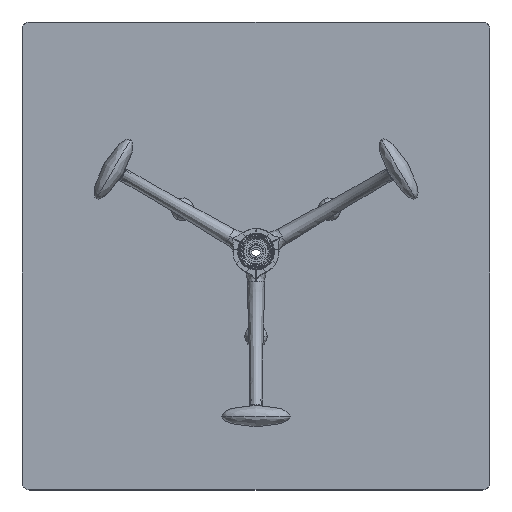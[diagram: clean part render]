
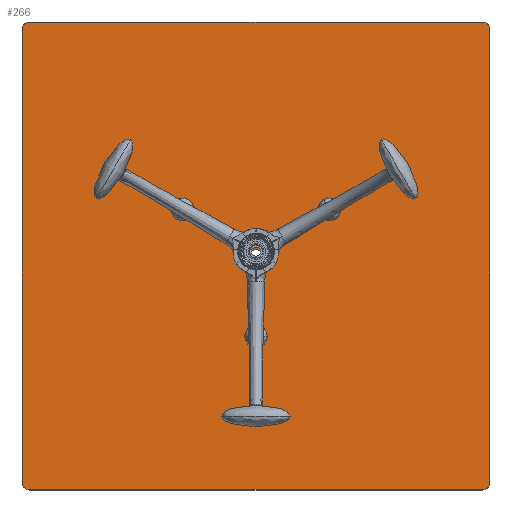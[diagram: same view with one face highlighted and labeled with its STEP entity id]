
A CAD part, top view. The second image highlights one B-rep face of the part: STEP entity #266.
In plain terms, the highlighted planar face has unit normal (0, 0, 1).
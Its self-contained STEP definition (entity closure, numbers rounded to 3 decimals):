
#97=FACE_BOUND($,#643,.T.);
#266=ADVANCED_FACE($,(#448,#97),#2934,.T.);
#448=FACE_OUTER_BOUND($,#642,.T.);
#642=EDGE_LOOP($,(#1783,#1784,#1785,#1786,#1787,#1788,#1789,#1790));
#643=EDGE_LOOP($,(#1791,#1792));
#1783=ORIENTED_EDGE($,*,*,#2428,.T.);
#1784=ORIENTED_EDGE($,*,*,#2429,.T.);
#1785=ORIENTED_EDGE($,*,*,#2430,.T.);
#1786=ORIENTED_EDGE($,*,*,#2431,.T.);
#1787=ORIENTED_EDGE($,*,*,#2432,.T.);
#1788=ORIENTED_EDGE($,*,*,#2427,.F.);
#1789=ORIENTED_EDGE($,*,*,#2423,.F.);
#1790=ORIENTED_EDGE($,*,*,#2433,.T.);
#1791=ORIENTED_EDGE($,*,*,#2435,.T.);
#1792=ORIENTED_EDGE($,*,*,#2434,.T.);
#2423=EDGE_CURVE($,#2879,#2880,#3256,.T.);
#2427=EDGE_CURVE($,#2880,#2881,#3639,.T.);
#2428=EDGE_CURVE($,#2882,#2883,#3259,.T.);
#2429=EDGE_CURVE($,#2883,#2884,#3640,.T.);
#2430=EDGE_CURVE($,#2884,#2885,#3260,.T.);
#2431=EDGE_CURVE($,#2885,#2886,#3641,.T.);
#2432=EDGE_CURVE($,#2886,#2881,#3261,.T.);
#2433=EDGE_CURVE($,#2879,#2882,#3642,.T.);
#2434=EDGE_CURVE($,#2887,#2888,#3262,.T.);
#2435=EDGE_CURVE($,#2888,#2887,#3263,.T.);
#2879=VERTEX_POINT($,#20258);
#2880=VERTEX_POINT($,#20259);
#2881=VERTEX_POINT($,#20260);
#2882=VERTEX_POINT($,#20261);
#2883=VERTEX_POINT($,#20262);
#2884=VERTEX_POINT($,#20263);
#2885=VERTEX_POINT($,#20264);
#2886=VERTEX_POINT($,#20265);
#2887=VERTEX_POINT($,#20266);
#2888=VERTEX_POINT($,#20267);
#2934=PLANE($,#4039);
#3256=(
BOUNDED_CURVE()
B_SPLINE_CURVE(2,(#20121,#20122,#20123),.UNSPECIFIED.,.F.,.F.)
B_SPLINE_CURVE_WITH_KNOTS((3,3),(1.571,3.142),.UNSPECIFIED.)
CURVE()
GEOMETRIC_REPRESENTATION_ITEM()
RATIONAL_B_SPLINE_CURVE((1.,0.707,1.))
REPRESENTATION_ITEM($)
);
#3259=(
BOUNDED_CURVE()
B_SPLINE_CURVE(2,(#20132,#20133,#20134),.UNSPECIFIED.,.F.,.F.)
B_SPLINE_CURVE_WITH_KNOTS((3,3),(-7.854,0.),.UNSPECIFIED.)
CURVE()
GEOMETRIC_REPRESENTATION_ITEM()
RATIONAL_B_SPLINE_CURVE((1.,0.707,1.))
REPRESENTATION_ITEM($)
);
#3260=(
BOUNDED_CURVE()
B_SPLINE_CURVE(2,(#20137,#20138,#20139),.UNSPECIFIED.,.F.,.F.)
B_SPLINE_CURVE_WITH_KNOTS((3,3),(-7.854,0.),.UNSPECIFIED.)
CURVE()
GEOMETRIC_REPRESENTATION_ITEM()
RATIONAL_B_SPLINE_CURVE((1.,0.707,1.))
REPRESENTATION_ITEM($)
);
#3261=(
BOUNDED_CURVE()
B_SPLINE_CURVE(2,(#20142,#20143,#20144),.UNSPECIFIED.,.F.,.F.)
B_SPLINE_CURVE_WITH_KNOTS((3,3),(-7.854,0.),.UNSPECIFIED.)
CURVE()
GEOMETRIC_REPRESENTATION_ITEM()
RATIONAL_B_SPLINE_CURVE((1.,0.707,1.))
REPRESENTATION_ITEM($)
);
#3262=(
BOUNDED_CURVE()
B_SPLINE_CURVE(2,(#20147,#20148,#20149,#20150,#20151),.UNSPECIFIED.,.F.,
.F.)
B_SPLINE_CURVE_WITH_KNOTS((3,2,3),(12.881,19.321,25.761),
.UNSPECIFIED.)
CURVE()
GEOMETRIC_REPRESENTATION_ITEM()
RATIONAL_B_SPLINE_CURVE((1.,0.707,1.,0.707,1.))
REPRESENTATION_ITEM($)
);
#3263=(
BOUNDED_CURVE()
B_SPLINE_CURVE(2,(#20152,#20153,#20154,#20155,#20156),.UNSPECIFIED.,.F.,
.F.)
B_SPLINE_CURVE_WITH_KNOTS((3,2,3),(0.,6.44,12.881),
.UNSPECIFIED.)
CURVE()
GEOMETRIC_REPRESENTATION_ITEM()
RATIONAL_B_SPLINE_CURVE((1.,0.707,1.,0.707,1.))
REPRESENTATION_ITEM($)
);
#3639=B_SPLINE_CURVE_WITH_KNOTS($,1,(#20130,#20131),.UNSPECIFIED.,.F.,.F.,
(2,2),(0.,290.),.UNSPECIFIED.);
#3640=B_SPLINE_CURVE_WITH_KNOTS($,1,(#20135,#20136),.UNSPECIFIED.,.F.,.F.,
(2,2),(-290.,0.),.UNSPECIFIED.);
#3641=B_SPLINE_CURVE_WITH_KNOTS($,1,(#20140,#20141),.UNSPECIFIED.,.F.,.F.,
(2,2),(-290.,0.),.UNSPECIFIED.);
#3642=B_SPLINE_CURVE_WITH_KNOTS($,1,(#20145,#20146),.UNSPECIFIED.,.F.,.F.,
(2,2),(-290.,0.),.UNSPECIFIED.);
#4039=AXIS2_PLACEMENT_3D($,#20194,#4097,$);
#4097=DIRECTION($,(0.,0.,1.));
#20121=CARTESIAN_POINT($,(-145.,-150.,0.));
#20122=CARTESIAN_POINT($,(-150.,-150.,0.));
#20123=CARTESIAN_POINT($,(-150.,-145.,0.));
#20130=CARTESIAN_POINT($,(-150.,-145.,0.));
#20131=CARTESIAN_POINT($,(-150.,145.,0.));
#20132=CARTESIAN_POINT($,(145.,-150.,0.));
#20133=CARTESIAN_POINT($,(150.,-150.,0.));
#20134=CARTESIAN_POINT($,(150.,-145.,0.));
#20135=CARTESIAN_POINT($,(150.,-145.,0.));
#20136=CARTESIAN_POINT($,(150.,145.,0.));
#20137=CARTESIAN_POINT($,(150.,145.,0.));
#20138=CARTESIAN_POINT($,(150.,150.,0.));
#20139=CARTESIAN_POINT($,(145.,150.,0.));
#20140=CARTESIAN_POINT($,(145.,150.,0.));
#20141=CARTESIAN_POINT($,(-145.,150.,0.));
#20142=CARTESIAN_POINT($,(-145.,150.,0.));
#20143=CARTESIAN_POINT($,(-150.,150.,0.));
#20144=CARTESIAN_POINT($,(-150.,145.,0.));
#20145=CARTESIAN_POINT($,(-145.,-150.,0.));
#20146=CARTESIAN_POINT($,(145.,-150.,0.));
#20147=CARTESIAN_POINT($,(4.1,0.,0.));
#20148=CARTESIAN_POINT($,(4.1,-4.1,0.));
#20149=CARTESIAN_POINT($,(0.,-4.1,0.));
#20150=CARTESIAN_POINT($,(-4.1,-4.1,0.));
#20151=CARTESIAN_POINT($,(-4.1,0.,0.));
#20152=CARTESIAN_POINT($,(-4.1,0.,0.));
#20153=CARTESIAN_POINT($,(-4.1,4.1,0.));
#20154=CARTESIAN_POINT($,(0.,4.1,0.));
#20155=CARTESIAN_POINT($,(4.1,4.1,0.));
#20156=CARTESIAN_POINT($,(4.1,0.,0.));
#20194=CARTESIAN_POINT($,(-150.,-150.,0.));
#20258=CARTESIAN_POINT($,(-145.,-150.,0.));
#20259=CARTESIAN_POINT($,(-150.,-145.,0.));
#20260=CARTESIAN_POINT($,(-150.,145.,0.));
#20261=CARTESIAN_POINT($,(145.,-150.,0.));
#20262=CARTESIAN_POINT($,(150.,-145.,0.));
#20263=CARTESIAN_POINT($,(150.,145.,0.));
#20264=CARTESIAN_POINT($,(145.,150.,0.));
#20265=CARTESIAN_POINT($,(-145.,150.,0.));
#20266=CARTESIAN_POINT($,(4.1,0.,0.));
#20267=CARTESIAN_POINT($,(-4.1,0.,0.));
